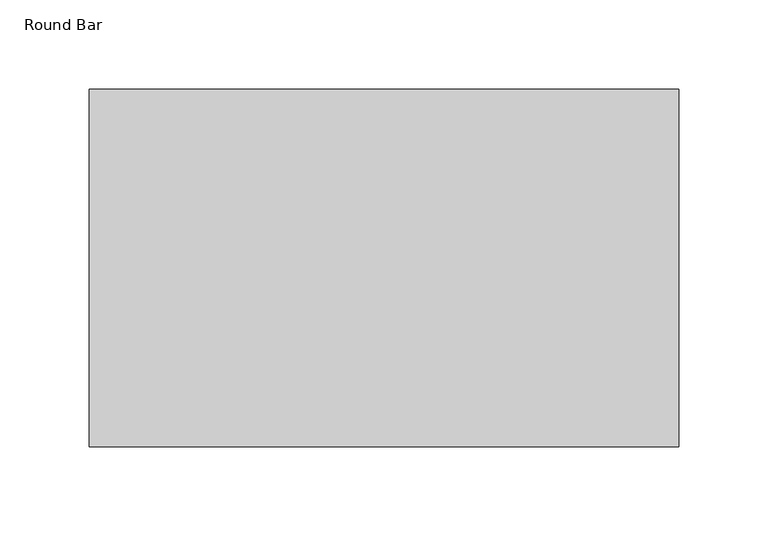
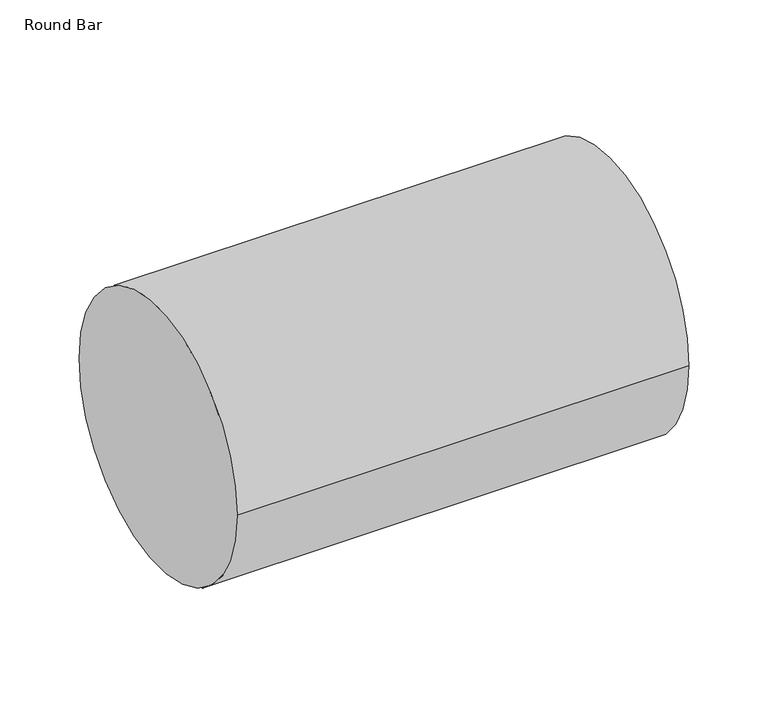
"""IFC4 building model written with IfcOpenShell, lengths in millimetres: beam geometry, Round Bar : Ispuna resetke."""

from ifc_helpers import new_model, si_unit, point, frame, origin, origin_2d, place, context, project, spatial, circle_curve, trimmed, segment, composite_curve, outline, extrude, source, transform, mapped, element, save


def round_bar_197e2d5d(model_context):
    return source(origin(), model_context, "Body", "SweptSolid", [
        extrude(outline(composite_curve([segment(trimmed(circle_curve(origin_2d(), 100.0), [point((-100.0, 0.0))], [point((100.0, 0.0))], False, "CARTESIAN"), True, "CONTINUOUS"), segment(trimmed(circle_curve(origin_2d(), 100.0), [point((100.0, 0.0))], [point((-100.0, 0.0))], False, "CARTESIAN"), True, "CONTINUOUS")], self_intersect=False)), frame((-168.5, 0.0, 0.0), z_axis=(1.0, 0.0, 0.0), x_axis=(0.0, 1.0, 0.0)), (0.0, 0.0, 1.0), 330.0),
    ])


if __name__ == "__main__":
    model = new_model("IFC4")
    model_context = context("Model", 3, world=origin())
    ifc_project = project(units=[si_unit("LENGTHUNIT", "METRE", prefix="MILLI")], contexts=[model_context])
    site = spatial("IfcSite", under=ifc_project)
    building = spatial("IfcBuilding", under=site)
    placement = place(None, origin())
    round_bar_shape = round_bar_197e2d5d(model_context)
    element("IfcBeam", 1, ObjectType="Round Bar : Ispuna resetke", at=placement, inside=building, context=model_context, shape_type="MappedRepresentation", body=[
        mapped(round_bar_shape, transform((0.0, 0.0, 0.0), x_axis=(1.0, 0.0, 0.0), y_axis=(0.0, 1.0, 0.0), z_axis=(0.0, 0.0, 1.0))),
    ])
    save(model, "model.ifc")
